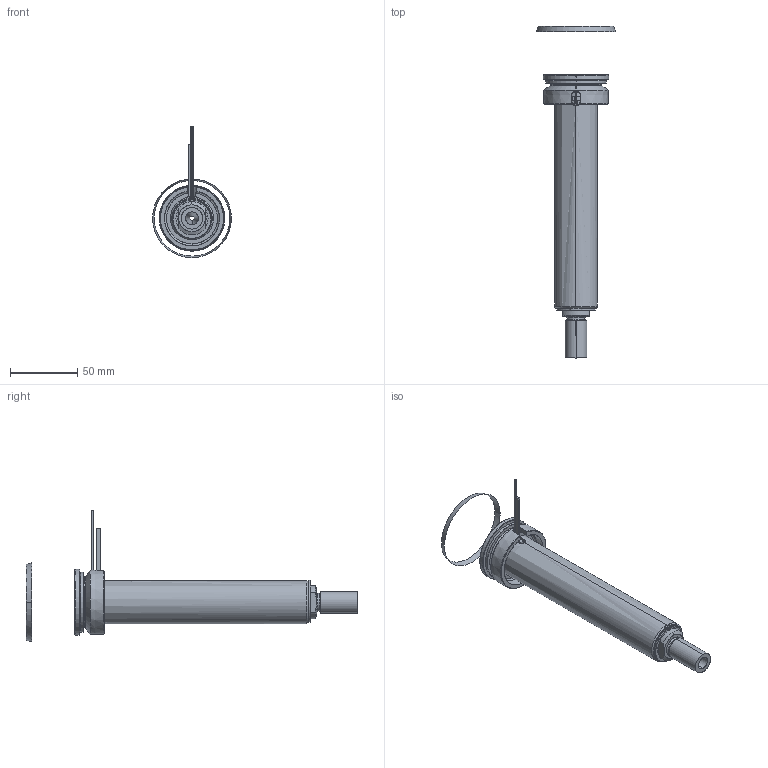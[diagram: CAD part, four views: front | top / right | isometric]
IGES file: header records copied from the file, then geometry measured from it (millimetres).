
Start section: SolidWorks IGES file using analytic representation for surfaces
Global section: file name: C:\Documents and Settings\ws-20\Desktop\TEMPORANEA\UGBE5004-S-A-P-5 [Ød-3.5 P-25 ØC-12].IGS; native system: SolidWorks 2012; preprocessor: SolidWorks 2012; author: ws-20; date: 120306.150117; units: millimetre
Bounding box: 58.79 x 247.44 x 98.01 mm (x, y, z)
Surface area: 69129 mm2 (no closed solid volume)
Topology: 0 solids, 0 shells, 110 faces, 2118 edges, 2118 vertices
Faces by surface type: revolution 67, bspline 43
